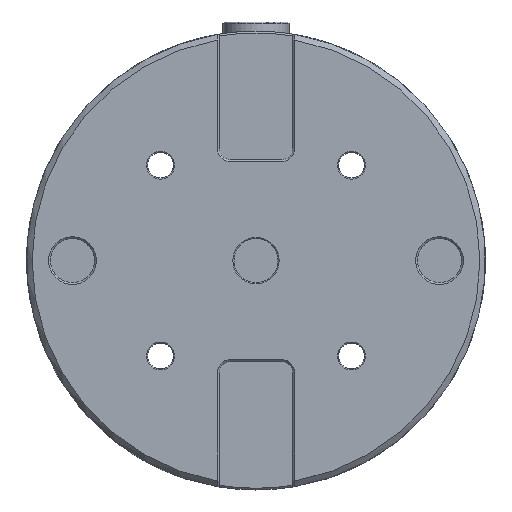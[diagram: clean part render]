
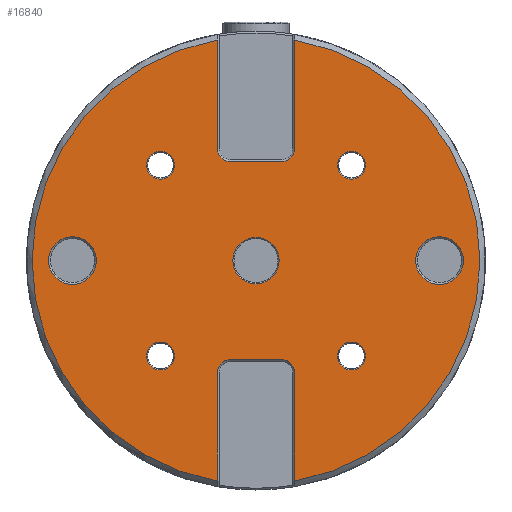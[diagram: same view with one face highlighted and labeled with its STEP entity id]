
A CAD part, front view. The second image highlights one B-rep face of the part: STEP entity #16840.
In plain terms, the highlighted planar face has unit normal (0, -1, 0).
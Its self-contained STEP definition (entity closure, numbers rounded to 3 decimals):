
#7413=DIRECTION('',(0.,0.,1.));
#7414=VECTOR('',#7413,29.59);
#7415=CARTESIAN_POINT('',(10.5,0.,
-60.09));
#7416=LINE('',#7415,#7414);
#7434=DIRECTION('',(-1.,0.,0.));
#7435=VECTOR('',#7434,14.);
#7436=CARTESIAN_POINT('',(7.,0.,-27.));
#7437=LINE('',#7436,#7435);
#7577=CARTESIAN_POINT('',(0.,0.,0.));
#7578=DIRECTION('',(0.,-1.,0.));
#7579=DIRECTION('',(0.172,0.,-0.985));
#7580=AXIS2_PLACEMENT_3D('',#7577,#7578,#7579);
#7582=CARTESIAN_POINT('',(7.,0.,-30.5));
#7583=DIRECTION('',(0.,1.,0.));
#7584=DIRECTION('',(0.,0.,1.));
#7585=AXIS2_PLACEMENT_3D('',#7582,#7583,#7584);
#7587=CARTESIAN_POINT('',(-7.,0.,-30.5));
#7588=DIRECTION('',(0.,1.,0.));
#7589=DIRECTION('',(-1.,0.,0.));
#7590=AXIS2_PLACEMENT_3D('',#7587,#7588,#7589);
#7592=CARTESIAN_POINT('',(0.,0.,0.));
#7593=DIRECTION('',(0.,-1.,0.));
#7594=DIRECTION('',(-0.172,0.,0.985));
#7595=AXIS2_PLACEMENT_3D('',#7592,#7593,#7594);
#7597=CARTESIAN_POINT('',(-7.,0.,30.5));
#7598=DIRECTION('',(0.,1.,0.));
#7599=DIRECTION('',(0.,0.,-1.));
#7600=AXIS2_PLACEMENT_3D('',#7597,#7598,#7599);
#7602=CARTESIAN_POINT('',(7.,0.,30.5));
#7603=DIRECTION('',(0.,1.,0.));
#7604=DIRECTION('',(1.,0.,0.));
#7605=AXIS2_PLACEMENT_3D('',#7602,#7603,#7604);
#7607=CARTESIAN_POINT('',(50.,0.,0.));
#7608=DIRECTION('',(0.,1.,0.));
#7609=DIRECTION('',(0.,0.,-1.));
#7610=AXIS2_PLACEMENT_3D('',#7607,#7608,#7609);
#7612=CARTESIAN_POINT('',(50.,0.,0.));
#7613=DIRECTION('',(0.,1.,0.));
#7614=DIRECTION('',(0.,0.,1.));
#7615=AXIS2_PLACEMENT_3D('',#7612,#7613,#7614);
#7617=CARTESIAN_POINT('',(-50.,0.,0.));
#7618=DIRECTION('',(0.,1.,0.));
#7619=DIRECTION('',(0.,0.,-1.));
#7620=AXIS2_PLACEMENT_3D('',#7617,#7618,#7619);
#7622=CARTESIAN_POINT('',(-50.,0.,0.));
#7623=DIRECTION('',(0.,1.,0.));
#7624=DIRECTION('',(0.,0.,1.));
#7625=AXIS2_PLACEMENT_3D('',#7622,#7623,#7624);
#7627=CARTESIAN_POINT('',(-26.,0.,26.));
#7628=DIRECTION('',(0.,1.,0.));
#7629=DIRECTION('',(0.,0.,-1.));
#7630=AXIS2_PLACEMENT_3D('',#7627,#7628,#7629);
#7632=CARTESIAN_POINT('',(-26.,0.,26.));
#7633=DIRECTION('',(0.,1.,0.));
#7634=DIRECTION('',(0.,0.,1.));
#7635=AXIS2_PLACEMENT_3D('',#7632,#7633,#7634);
#7637=CARTESIAN_POINT('',(-26.,0.,-26.));
#7638=DIRECTION('',(0.,1.,0.));
#7639=DIRECTION('',(0.,0.,-1.));
#7640=AXIS2_PLACEMENT_3D('',#7637,#7638,#7639);
#7642=CARTESIAN_POINT('',(-26.,0.,-26.));
#7643=DIRECTION('',(0.,1.,0.));
#7644=DIRECTION('',(0.,0.,1.));
#7645=AXIS2_PLACEMENT_3D('',#7642,#7643,#7644);
#7647=CARTESIAN_POINT('',(26.,0.,-26.));
#7648=DIRECTION('',(0.,1.,0.));
#7649=DIRECTION('',(0.,0.,-1.));
#7650=AXIS2_PLACEMENT_3D('',#7647,#7648,#7649);
#7652=CARTESIAN_POINT('',(26.,0.,-26.));
#7653=DIRECTION('',(0.,1.,0.));
#7654=DIRECTION('',(0.,0.,1.));
#7655=AXIS2_PLACEMENT_3D('',#7652,#7653,#7654);
#7657=CARTESIAN_POINT('',(26.,0.,26.));
#7658=DIRECTION('',(0.,1.,0.));
#7659=DIRECTION('',(0.,0.,-1.));
#7660=AXIS2_PLACEMENT_3D('',#7657,#7658,#7659);
#7662=CARTESIAN_POINT('',(26.,0.,26.));
#7663=DIRECTION('',(0.,1.,0.));
#7664=DIRECTION('',(0.,0.,1.));
#7665=AXIS2_PLACEMENT_3D('',#7662,#7663,#7664);
#7667=CARTESIAN_POINT('',(0.,0.,0.));
#7668=DIRECTION('',(0.,1.,0.));
#7669=DIRECTION('',(0.,0.,-1.));
#7670=AXIS2_PLACEMENT_3D('',#7667,#7668,#7669);
#7672=CARTESIAN_POINT('',(0.,0.,0.));
#7673=DIRECTION('',(0.,1.,0.));
#7674=DIRECTION('',(0.,0.,1.));
#7675=AXIS2_PLACEMENT_3D('',#7672,#7673,#7674);
#7677=DIRECTION('',(0.,0.,-1.));
#7678=VECTOR('',#7677,29.59);
#7679=CARTESIAN_POINT('',(-10.5,0.,-30.5));
#7680=LINE('',#7679,#7678);
#7685=DIRECTION('',(0.,0.,-1.));
#7686=VECTOR('',#7685,29.59);
#7687=CARTESIAN_POINT('',(-10.5,0.,
60.09));
#7688=LINE('',#7687,#7686);
#7710=DIRECTION('',(1.,0.,0.));
#7711=VECTOR('',#7710,14.);
#7712=CARTESIAN_POINT('',(-7.,0.,27.));
#7713=LINE('',#7712,#7711);
#7778=DIRECTION('',(0.,0.,1.));
#7779=VECTOR('',#7778,29.59);
#7780=CARTESIAN_POINT('',(10.5,0.,30.5));
#7781=LINE('',#7780,#7779);
#13837=CARTESIAN_POINT('',(-26.,0.,-22.2));
#13839=VERTEX_POINT('',#13837);
#13927=CARTESIAN_POINT('',(26.,0.,-22.2));
#13929=VERTEX_POINT('',#13927);
#13941=CARTESIAN_POINT('',(-26.,0.,-29.8));
#13942=VERTEX_POINT('',#13941);
#13955=CARTESIAN_POINT('',(-10.5,0.,60.09));
#13956=CARTESIAN_POINT('',(-10.5,0.,-60.09));
#13957=VERTEX_POINT('',#13955);
#13958=VERTEX_POINT('',#13956);
#13986=CARTESIAN_POINT('',(-10.5,0.,-30.5));
#13988=VERTEX_POINT('',#13986);
#14028=CARTESIAN_POINT('',(10.5,0.,-30.5));
#14030=VERTEX_POINT('',#14028);
#14069=CARTESIAN_POINT('',(26.,0.,-29.8));
#14071=VERTEX_POINT('',#14069);
#14083=CARTESIAN_POINT('',(7.,0.,-27.));
#14084=VERTEX_POINT('',#14083);
#14143=CARTESIAN_POINT('',(26.,0.,22.2));
#14144=CARTESIAN_POINT('',(26.,0.,29.8));
#14145=VERTEX_POINT('',#14143);
#14146=VERTEX_POINT('',#14144);
#14281=CARTESIAN_POINT('',(-26.,0.,22.2));
#14282=CARTESIAN_POINT('',(-26.,0.,29.8));
#14283=VERTEX_POINT('',#14281);
#14284=VERTEX_POINT('',#14282);
#14311=CARTESIAN_POINT('',(10.5,0.,
-60.09));
#14312=VERTEX_POINT('',#14311);
#14365=CARTESIAN_POINT('',(0.,0.,6.3));
#14366=VERTEX_POINT('',#14365);
#14371=CARTESIAN_POINT('',(-50.,0.,-6.5));
#14372=VERTEX_POINT('',#14371);
#14400=CARTESIAN_POINT('',(10.5,0.,60.09));
#14401=VERTEX_POINT('',#14400);
#14410=CARTESIAN_POINT('',(-50.,0.,6.5));
#14411=VERTEX_POINT('',#14410);
#14512=CARTESIAN_POINT('',(10.5,0.,30.5));
#14513=VERTEX_POINT('',#14512);
#14555=CARTESIAN_POINT('',(7.,0.,27.));
#14556=VERTEX_POINT('',#14555);
#14580=CARTESIAN_POINT('',(50.,0.,-6.5));
#14581=CARTESIAN_POINT('',(50.,0.,6.5));
#14582=VERTEX_POINT('',#14580);
#14583=VERTEX_POINT('',#14581);
#14685=CARTESIAN_POINT('',(-10.5,0.,30.5));
#14686=VERTEX_POINT('',#14685);
#14744=CARTESIAN_POINT('',(0.,0.,-6.3));
#14745=VERTEX_POINT('',#14744);
#14830=CARTESIAN_POINT('',(-7.,0.,27.));
#14831=VERTEX_POINT('',#14830);
#14875=CARTESIAN_POINT('',(-7.,0.,-27.));
#14876=VERTEX_POINT('',#14875);
#16773=CARTESIAN_POINT('',(0.,0.,0.));
#16774=DIRECTION('',(0.,1.,0.));
#16775=DIRECTION('',(0.,0.,1.));
#16776=AXIS2_PLACEMENT_3D('',#16773,#16774,#16775);
#16777=PLANE('',#16776);
#16778=ORIENTED_EDGE('',*,*,#16541,.F.);
#16779=ORIENTED_EDGE('',*,*,#16570,.T.);
#16780=ORIENTED_EDGE('',*,*,#16585,.F.);
#16781=ORIENTED_EDGE('',*,*,#16600,.T.);
#16782=ORIENTED_EDGE('',*,*,#16618,.F.);
#16784=ORIENTED_EDGE('',*,*,#16783,.T.);
#16785=ORIENTED_EDGE('',*,*,#16764,.F.);
#16787=ORIENTED_EDGE('',*,*,#16786,.T.);
#16789=ORIENTED_EDGE('',*,*,#16788,.F.);
#16791=ORIENTED_EDGE('',*,*,#16790,.T.);
#16793=ORIENTED_EDGE('',*,*,#16792,.F.);
#16795=ORIENTED_EDGE('',*,*,#16794,.T.);
#16796=EDGE_LOOP('',(#16778,#16779,#16780,#16781,#16782,#16784,#16785,#16787,
#16789,#16791,#16793,#16795));
#16797=FACE_OUTER_BOUND('',#16796,.F.);
#16799=ORIENTED_EDGE('',*,*,#16798,.F.);
#16801=ORIENTED_EDGE('',*,*,#16800,.F.);
#16802=EDGE_LOOP('',(#16799,#16801));
#16803=FACE_BOUND('',#16802,.F.);
#16805=ORIENTED_EDGE('',*,*,#16804,.F.);
#16807=ORIENTED_EDGE('',*,*,#16806,.F.);
#16808=EDGE_LOOP('',(#16805,#16807));
#16809=FACE_BOUND('',#16808,.F.);
#16811=ORIENTED_EDGE('',*,*,#16810,.F.);
#16813=ORIENTED_EDGE('',*,*,#16812,.F.);
#16814=EDGE_LOOP('',(#16811,#16813));
#16815=FACE_BOUND('',#16814,.F.);
#16817=ORIENTED_EDGE('',*,*,#16816,.F.);
#16819=ORIENTED_EDGE('',*,*,#16818,.F.);
#16820=EDGE_LOOP('',(#16817,#16819));
#16821=FACE_BOUND('',#16820,.F.);
#16823=ORIENTED_EDGE('',*,*,#16822,.F.);
#16825=ORIENTED_EDGE('',*,*,#16824,.F.);
#16826=EDGE_LOOP('',(#16823,#16825));
#16827=FACE_BOUND('',#16826,.F.);
#16829=ORIENTED_EDGE('',*,*,#16828,.F.);
#16831=ORIENTED_EDGE('',*,*,#16830,.F.);
#16832=EDGE_LOOP('',(#16829,#16831));
#16833=FACE_BOUND('',#16832,.F.);
#16835=ORIENTED_EDGE('',*,*,#16834,.F.);
#16837=ORIENTED_EDGE('',*,*,#16836,.F.);
#16838=EDGE_LOOP('',(#16835,#16837));
#16839=FACE_BOUND('',#16838,.F.);
#16840=ADVANCED_FACE('',(#16797,#16803,#16809,#16815,#16821,#16827,#16833,
#16839),#16777,.F.);
#7581=CIRCLE('',#7580,61.);
#7586=CIRCLE('',#7585,3.5);
#7591=CIRCLE('',#7590,3.5);
#7596=CIRCLE('',#7595,61.);
#7601=CIRCLE('',#7600,3.5);
#7606=CIRCLE('',#7605,3.5);
#7611=CIRCLE('',#7610,6.5);
#7616=CIRCLE('',#7615,6.5);
#7621=CIRCLE('',#7620,6.5);
#7626=CIRCLE('',#7625,6.5);
#7631=CIRCLE('',#7630,3.8);
#7636=CIRCLE('',#7635,3.8);
#7641=CIRCLE('',#7640,3.8);
#7646=CIRCLE('',#7645,3.8);
#7651=CIRCLE('',#7650,3.8);
#7656=CIRCLE('',#7655,3.8);
#7661=CIRCLE('',#7660,3.8);
#7666=CIRCLE('',#7665,3.8);
#7671=CIRCLE('',#7670,6.3);
#7676=CIRCLE('',#7675,6.3);
#16541=EDGE_CURVE('',#14312,#14401,#7581,.T.);
#16570=EDGE_CURVE('',#14312,#14030,#7416,.T.);
#16585=EDGE_CURVE('',#14084,#14030,#7586,.T.);
#16600=EDGE_CURVE('',#14084,#14876,#7437,.T.);
#16618=EDGE_CURVE('',#13988,#14876,#7591,.T.);
#16764=EDGE_CURVE('',#13957,#13958,#7596,.T.);
#16783=EDGE_CURVE('',#13988,#13958,#7680,.T.);
#16786=EDGE_CURVE('',#13957,#14686,#7688,.T.);
#16788=EDGE_CURVE('',#14831,#14686,#7601,.T.);
#16790=EDGE_CURVE('',#14831,#14556,#7713,.T.);
#16792=EDGE_CURVE('',#14513,#14556,#7606,.T.);
#16794=EDGE_CURVE('',#14513,#14401,#7781,.T.);
#16798=EDGE_CURVE('',#14582,#14583,#7611,.T.);
#16800=EDGE_CURVE('',#14583,#14582,#7616,.T.);
#16804=EDGE_CURVE('',#14372,#14411,#7621,.T.);
#16806=EDGE_CURVE('',#14411,#14372,#7626,.T.);
#16810=EDGE_CURVE('',#14283,#14284,#7631,.T.);
#16812=EDGE_CURVE('',#14284,#14283,#7636,.T.);
#16816=EDGE_CURVE('',#13942,#13839,#7641,.T.);
#16818=EDGE_CURVE('',#13839,#13942,#7646,.T.);
#16822=EDGE_CURVE('',#14071,#13929,#7651,.T.);
#16824=EDGE_CURVE('',#13929,#14071,#7656,.T.);
#16828=EDGE_CURVE('',#14145,#14146,#7661,.T.);
#16830=EDGE_CURVE('',#14146,#14145,#7666,.T.);
#16834=EDGE_CURVE('',#14745,#14366,#7671,.T.);
#16836=EDGE_CURVE('',#14366,#14745,#7676,.T.);
